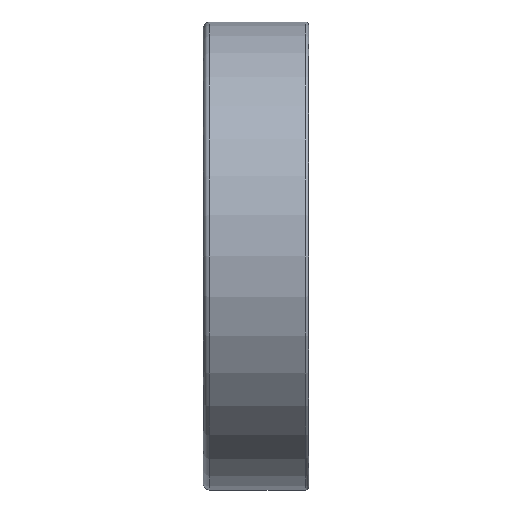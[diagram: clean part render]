
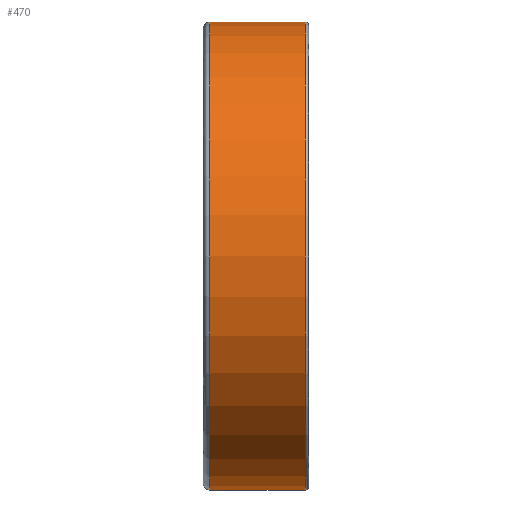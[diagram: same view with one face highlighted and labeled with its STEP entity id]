
A CAD part, front view. The second image highlights one B-rep face of the part: STEP entity #470.
In plain terms, the highlighted cylindrical face has radius 40 mm (diameter 80 mm), a full revolution.
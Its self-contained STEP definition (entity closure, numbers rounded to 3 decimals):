
#152=CYLINDRICAL_SURFACE('',#722,40.);
#232=EDGE_LOOP('',(#324));
#233=EDGE_LOOP('',(#325));
#324=ORIENTED_EDGE('',*,*,#378,.F.);
#325=ORIENTED_EDGE('',*,*,#376,.T.);
#376=EDGE_CURVE('',#659,#659,#396,.T.);
#378=EDGE_CURVE('',#661,#661,#398,.T.);
#396=CIRCLE('',#718,40.);
#398=CIRCLE('',#721,40.);
#470=ADVANCED_FACE('',(#581,#582),#152,.T.);
#581=FACE_BOUND('',#232,.T.);
#582=FACE_BOUND('',#233,.T.);
#659=VERTEX_POINT('',#1434);
#661=VERTEX_POINT('',#1439);
#718=AXIS2_PLACEMENT_3D('',#1433,#831,#832);
#721=AXIS2_PLACEMENT_3D('',#1438,#837,#838);
#722=AXIS2_PLACEMENT_3D('',#1440,#839,#840);
#831=DIRECTION('',(1.,0.,0.));
#832=DIRECTION('',(0.,0.,-1.));
#837=DIRECTION('',(1.,0.,0.));
#838=DIRECTION('',(0.,0.,-1.));
#839=DIRECTION('',(1.,0.,0.));
#840=DIRECTION('',(0.,0.,-1.));
#1433=CARTESIAN_POINT('',(-7.9,0.,0.));
#1434=CARTESIAN_POINT('',(-7.9,0.,-40.));
#1438=CARTESIAN_POINT('',(8.4,0.,0.));
#1439=CARTESIAN_POINT('',(8.4,0.,-40.));
#1440=CARTESIAN_POINT('',(-7.9,0.,0.));
